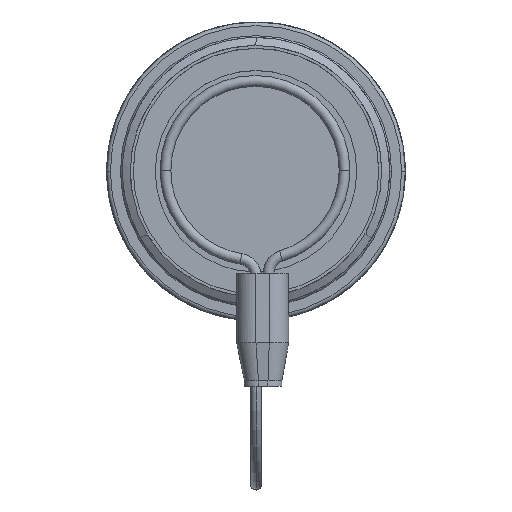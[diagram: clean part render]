
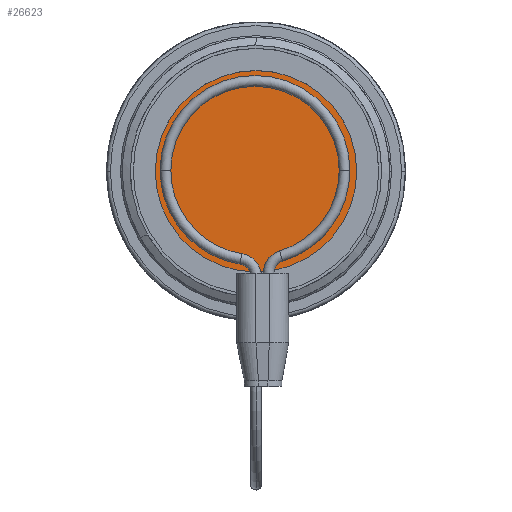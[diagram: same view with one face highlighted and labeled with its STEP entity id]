
A CAD part, top view. The second image highlights one B-rep face of the part: STEP entity #26623.
In plain terms, the highlighted planar face has unit normal (0, 0, 1) as drawn and (0, 0, -1) by its records, which use the part's own axes.
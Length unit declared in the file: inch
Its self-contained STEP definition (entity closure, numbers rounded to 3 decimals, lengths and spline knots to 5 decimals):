
#3568 = CARTESIAN_POINT ( 'NONE',  ( 0., 0., -0.38 ) ) ;
#5542 = EDGE_CURVE ( 'NONE', #13939, #43299, #8489, .T. ) ;
#7568 = CARTESIAN_POINT ( 'NONE',  ( 0., 0., -0.38 ) ) ;
#8185 = CARTESIAN_POINT ( 'NONE',  ( -0.5625, 0., -0.38 ) ) ;
#8489 = CIRCLE ( 'NONE', #30978, 0.5625 ) ;
#9182 = EDGE_CURVE ( 'NONE', #43299, #13939, #33965, .T. ) ;
#9428 = AXIS2_PLACEMENT_3D ( 'NONE', #51637, #61482, #52266 ) ;
#9462 = AXIS2_PLACEMENT_3D ( 'NONE', #3568, #56059, #42552 ) ;
#13939 = VERTEX_POINT ( 'NONE', #8185 ) ;
#26579 = CARTESIAN_POINT ( 'NONE',  ( 0.5625, 0., -0.38 ) ) ;
#26623 = ADVANCED_FACE ( 'NONE', ( #37836 ), #42632, .T. ) ;
#30298 = EDGE_LOOP ( 'NONE', ( #48187, #53686 ) ) ;
#30978 = AXIS2_PLACEMENT_3D ( 'NONE', #7568, #41450, #60936 ) ;
#33965 = CIRCLE ( 'NONE', #9462, 0.5625 ) ;
#37836 = FACE_OUTER_BOUND ( 'NONE', #30298, .T. ) ;
#41450 = DIRECTION ( 'NONE',  ( 0., 0., -1. ) ) ;
#42552 = DIRECTION ( 'NONE',  ( -1., 0., 0. ) ) ;
#42632 = PLANE ( 'NONE',  #9428 ) ;
#43299 = VERTEX_POINT ( 'NONE', #26579 ) ;
#48187 = ORIENTED_EDGE ( 'NONE', *, *, #5542, .T. ) ;
#51637 = CARTESIAN_POINT ( 'NONE',  ( 0., 0.5625, -0.38 ) ) ;
#52266 = DIRECTION ( 'NONE',  ( -1., 0., 0. ) ) ;
#53686 = ORIENTED_EDGE ( 'NONE', *, *, #9182, .T. ) ;
#56059 = DIRECTION ( 'NONE',  ( 0., 0., -1. ) ) ;
#60936 = DIRECTION ( 'NONE',  ( -1., 0., 0. ) ) ;
#61482 = DIRECTION ( 'NONE',  ( 0., 0., -1. ) ) ;
